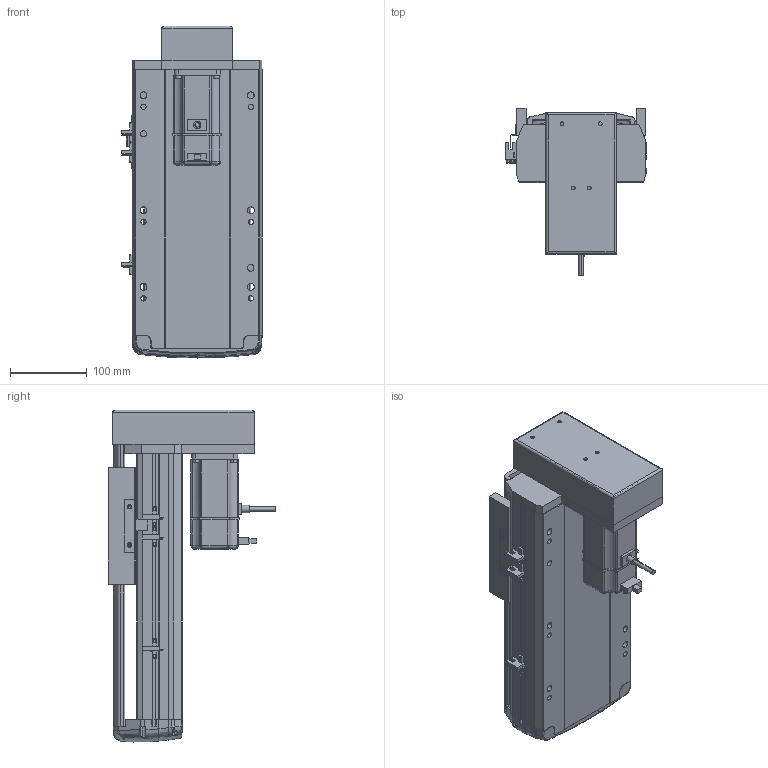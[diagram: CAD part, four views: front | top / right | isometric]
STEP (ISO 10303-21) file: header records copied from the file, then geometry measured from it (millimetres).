
FILE_DESCRIPTION (( 'STEP AP214' ), '1' );
FILE_NAME ('RTH17-XX-150-M-M40-C4.STEP', '2025-10-24T09:02:14', ( '' ), ( '' ), 'SwSTEP 2.0', 'SolidWorks 2018', '' );
FILE_SCHEMA (( 'AUTOMOTIVE_DESIGN' ));
Length unit declared in the file: millimetre
Products named in the file (10): N_RTH17-M-018盖子^RTH17-XX-XX-M-M40-C4（方程式）; N_RTH17-GY-001P^RTH17-XX-XX-M-M40-C4（方程式）; N_RTH17-E-004丝杆螺母连接座^RTH17-XX-XX-M-M40-C4（方程式）; N_RTH17-M-007上盖^RTH17-XX-XX-M-M40-C4（方程式）; N_RTH17-M-011底座^RTH17-XX-XX-M-M40-C4（方程式）; N_RTH17-M-008-P40电机安装板下折^RTH17-XX-XX-M-M40-C4（方程式）; N_M40^RTH17-XX-XX-M-M40-C4（方程式）; RTH17-XX-150-M-M40-C4; N_OMRON EE-SX672 換覜ん^RTH17-XX-XX-M-M40-C4ㄗ源最宒ㄘ; N_RTH-BL-012 感应片(外置)^RTH17-XX-XX-M-M40-C4（方程式）
Assembly tree (11 placements, depth 2):
  RTH17-XX-150-M-M40-C4
    N_RTH17-M-011底座^RTH17-XX-XX-M-M40-C4（方程式）
    N_RTH17-M-007上盖^RTH17-XX-XX-M-M40-C4（方程式）
    N_M40^RTH17-XX-XX-M-M40-C4（方程式）
    N_OMRON EE-SX672 換覜ん^RTH17-XX-XX-M-M40-C4ㄗ源最宒ㄘ  x3
    N_RTH-BL-012 感应片(外置)^RTH17-XX-XX-M-M40-C4（方程式）
    N_RTH17-M-008-P40电机安装板下折^RTH17-XX-XX-M-M40-C4（方程式）
    N_RTH17-M-018盖子^RTH17-XX-XX-M-M40-C4（方程式）
    N_RTH17-E-004丝杆螺母连接座^RTH17-XX-XX-M-M40-C4（方程式）
    N_RTH17-GY-001P^RTH17-XX-XX-M-M40-C4（方程式）
Bounding box: 183.5 x 219 x 433.27 mm (x, y, z)
Volume: 3987566 mm3; surface area: 657448.5 mm2
Topology: 10 solids, 12 shells, 1615 faces, 4482 edges, 2920 vertices
Faces by surface type: plane 826, cylinder 422, bspline 330, cone 28, torus 9
Entity records: 46500 total; most frequent: CARTESIAN_POINT 18898, ORIENTED_EDGE 5988, DIRECTION 4930, EDGE_CURVE 2998, VERTEX_POINT 1956, LINE 1720, VECTOR 1720, AXIS2_PLACEMENT_3D 1605
